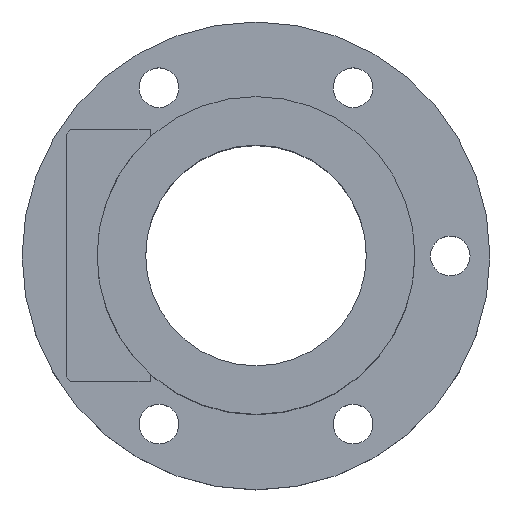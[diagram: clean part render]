
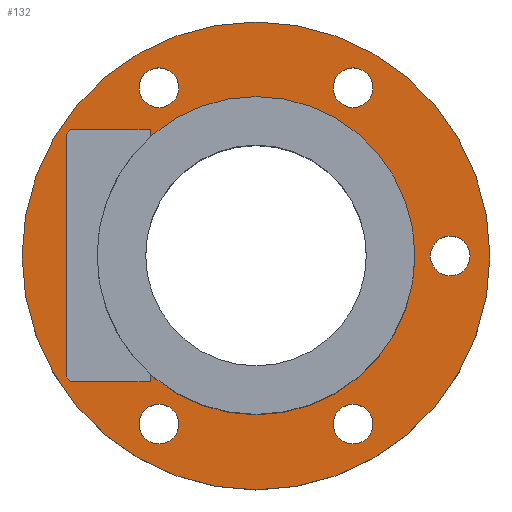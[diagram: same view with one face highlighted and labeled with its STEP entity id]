
A CAD part, top view. The second image highlights one B-rep face of the part: STEP entity #132.
In plain terms, the highlighted planar face has unit normal (0, 0, 1).
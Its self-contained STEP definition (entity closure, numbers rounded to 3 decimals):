
#97=PLANE('',#557);
#114=FACE_OUTER_BOUND('',#269,.T.);
#132=ADVANCED_FACE('',(#221,#222,#223,#114,#224,#225,#226),#97,.T.);
#221=FACE_BOUND('',#266,.T.);
#222=FACE_BOUND('',#267,.T.);
#223=FACE_BOUND('',#268,.T.);
#224=FACE_BOUND('',#270,.T.);
#225=FACE_BOUND('',#271,.T.);
#226=FACE_BOUND('',#272,.T.);
#266=EDGE_LOOP('',(#331));
#267=EDGE_LOOP('',(#332));
#268=EDGE_LOOP('',(#333));
#269=EDGE_LOOP('',(#334));
#270=EDGE_LOOP('',(#335));
#271=EDGE_LOOP('',(#336));
#272=EDGE_LOOP('',(#337));
#331=ORIENTED_EDGE('',*,*,#473,.F.);
#332=ORIENTED_EDGE('',*,*,#474,.F.);
#333=ORIENTED_EDGE('',*,*,#468,.F.);
#334=ORIENTED_EDGE('',*,*,#475,.T.);
#335=ORIENTED_EDGE('',*,*,#476,.F.);
#336=ORIENTED_EDGE('',*,*,#477,.F.);
#337=ORIENTED_EDGE('',*,*,#478,.F.);
#426=VERTEX_POINT('',#748);
#431=VERTEX_POINT('',#759);
#432=VERTEX_POINT('',#761);
#433=VERTEX_POINT('',#763);
#434=VERTEX_POINT('',#765);
#435=VERTEX_POINT('',#767);
#436=VERTEX_POINT('',#769);
#468=EDGE_CURVE('',#426,#426,#518,.T.);
#473=EDGE_CURVE('',#431,#431,#521,.T.);
#474=EDGE_CURVE('',#432,#432,#522,.T.);
#475=EDGE_CURVE('',#433,#433,#523,.T.);
#476=EDGE_CURVE('',#434,#434,#524,.T.);
#477=EDGE_CURVE('',#435,#435,#525,.T.);
#478=EDGE_CURVE('',#436,#436,#526,.T.);
#518=CIRCLE('',#547,36.);
#521=CIRCLE('',#551,4.5);
#522=CIRCLE('',#552,4.5);
#523=CIRCLE('',#553,53.);
#524=CIRCLE('',#554,4.5);
#525=CIRCLE('',#555,4.5);
#526=CIRCLE('',#556,4.5);
#547=AXIS2_PLACEMENT_3D('',#747,#608,#609);
#551=AXIS2_PLACEMENT_3D('',#758,#618,#619);
#552=AXIS2_PLACEMENT_3D('',#760,#620,#621);
#553=AXIS2_PLACEMENT_3D('',#762,#622,#623);
#554=AXIS2_PLACEMENT_3D('',#764,#624,#625);
#555=AXIS2_PLACEMENT_3D('',#766,#626,#627);
#556=AXIS2_PLACEMENT_3D('',#768,#628,#629);
#557=AXIS2_PLACEMENT_3D('',#770,#630,#631);
#608=DIRECTION('',(0.,0.,1.));
#609=DIRECTION('',(1.,0.,0.));
#618=DIRECTION('',(0.,0.,1.));
#619=DIRECTION('',(-0.5,-0.866,0.));
#620=DIRECTION('',(0.,0.,1.));
#621=DIRECTION('',(0.5,0.866,0.));
#622=DIRECTION('',(0.,0.,1.));
#623=DIRECTION('',(1.,0.,0.));
#624=DIRECTION('',(0.,0.,1.));
#625=DIRECTION('',(1.,0.,0.));
#626=DIRECTION('',(0.,0.,1.));
#627=DIRECTION('',(-1.,0.,0.));
#628=DIRECTION('',(0.,0.,1.));
#629=DIRECTION('',(0.5,-0.866,0.));
#630=DIRECTION('',(0.,0.,1.));
#631=DIRECTION('',(1.,0.,0.));
#747=CARTESIAN_POINT('',(0.,0.,16.));
#748=CARTESIAN_POINT('',(36.,0.,16.));
#758=CARTESIAN_POINT('',(22.,-38.105,16.));
#759=CARTESIAN_POINT('',(19.75,-42.002,16.));
#760=CARTESIAN_POINT('',(-22.,38.105,16.));
#761=CARTESIAN_POINT('',(-19.75,42.002,16.));
#762=CARTESIAN_POINT('',(0.,0.,16.));
#763=CARTESIAN_POINT('',(53.,0.,16.));
#764=CARTESIAN_POINT('',(22.,38.105,16.));
#765=CARTESIAN_POINT('',(26.5,38.105,16.));
#766=CARTESIAN_POINT('',(-22.,-38.105,16.));
#767=CARTESIAN_POINT('',(-26.5,-38.105,16.));
#768=CARTESIAN_POINT('',(44.,0.,16.));
#769=CARTESIAN_POINT('',(46.25,-3.897,16.));
#770=CARTESIAN_POINT('',(0.,0.,16.));
